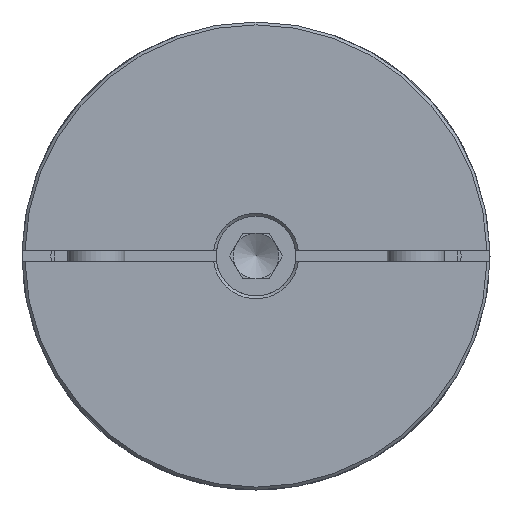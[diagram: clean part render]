
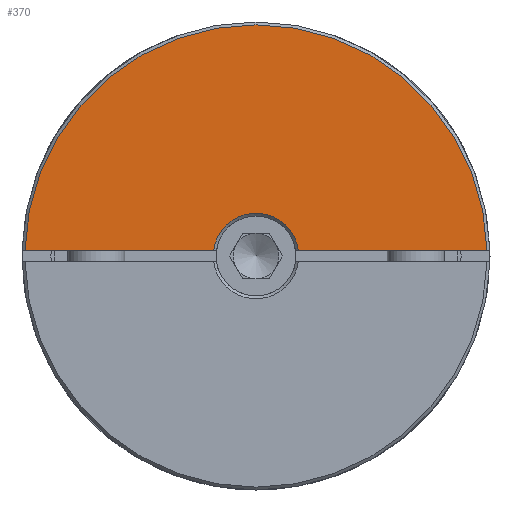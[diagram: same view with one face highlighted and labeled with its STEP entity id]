
A CAD part, left-side view. The second image highlights one B-rep face of the part: STEP entity #370.
In plain terms, the highlighted planar face has unit normal (-1, 0, 0) as drawn and (1, 0, 0) by its records, which use the part's own axes.
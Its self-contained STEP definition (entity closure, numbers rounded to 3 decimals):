
#370 = ADVANCED_FACE( '', ( #604 ), #605, .T. );
#604 = FACE_OUTER_BOUND( '', #843, .T. );
#605 = PLANE( '', #844 );
#843 = EDGE_LOOP( '', ( #1127, #1128, #1129, #1130 ) );
#844 = AXIS2_PLACEMENT_3D( '', #1131, #1132, #1133 );
#1127 = ORIENTED_EDGE( '', *, *, #1573, .F. );
#1128 = ORIENTED_EDGE( '', *, *, #1560, .T. );
#1129 = ORIENTED_EDGE( '', *, *, #1574, .F. );
#1130 = ORIENTED_EDGE( '', *, *, #1558, .T. );
#1131 = CARTESIAN_POINT( '', ( 36., 0., 41. ) );
#1132 = DIRECTION( '', ( 1., 0., 0. ) );
#1133 = DIRECTION( '', ( 0., 0., -1. ) );
#1558 = EDGE_CURVE( '', #1706, #1710, #1712, .F. );
#1560 = EDGE_CURVE( '', #1716, #1713, #1717, .T. );
#1573 = EDGE_CURVE( '', #1716, #1710, #1740, .T. );
#1574 = EDGE_CURVE( '', #1706, #1713, #1741, .T. );
#1706 = VERTEX_POINT( '', #1868 );
#1710 = VERTEX_POINT( '', #1875 );
#1712 = CIRCLE( '', #1880, 7.5 );
#1713 = VERTEX_POINT( '', #1881 );
#1716 = VERTEX_POINT( '', #1887 );
#1717 = CIRCLE( '', #1888, 40.5 );
#1740 = LINE( '', #2104, #2105 );
#1741 = LINE( '', #2106, #2107 );
#1868 = CARTESIAN_POINT( '', ( 36., -7.433, 1. ) );
#1875 = CARTESIAN_POINT( '', ( 36., 7.433, 1. ) );
#1880 = AXIS2_PLACEMENT_3D( '', #2398, #2399, #2400 );
#1881 = CARTESIAN_POINT( '', ( 36., -40.488, 1. ) );
#1887 = CARTESIAN_POINT( '', ( 36., 40.488, 1. ) );
#1888 = AXIS2_PLACEMENT_3D( '', #2401, #2402, #2403 );
#2104 = CARTESIAN_POINT( '', ( 36., 0., 1. ) );
#2105 = VECTOR( '', #2427, 1000. );
#2106 = CARTESIAN_POINT( '', ( 36., 0., 1. ) );
#2107 = VECTOR( '', #2428, 1000. );
#2398 = CARTESIAN_POINT( '', ( 36., 0., 0. ) );
#2399 = DIRECTION( '', ( 1., 0., 0. ) );
#2400 = DIRECTION( '', ( 0., 0., -1. ) );
#2401 = CARTESIAN_POINT( '', ( 36., 0., 0. ) );
#2402 = DIRECTION( '', ( 1., 0., 0. ) );
#2403 = DIRECTION( '', ( 0., 0., -1. ) );
#2427 = DIRECTION( '', ( 0., -1., 0. ) );
#2428 = DIRECTION( '', ( 0., -1., 0. ) );
